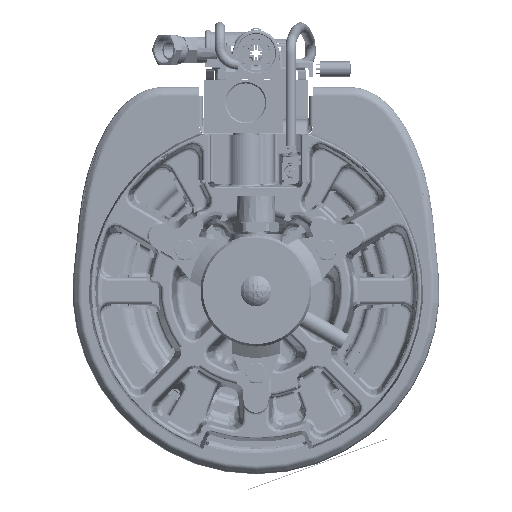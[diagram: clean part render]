
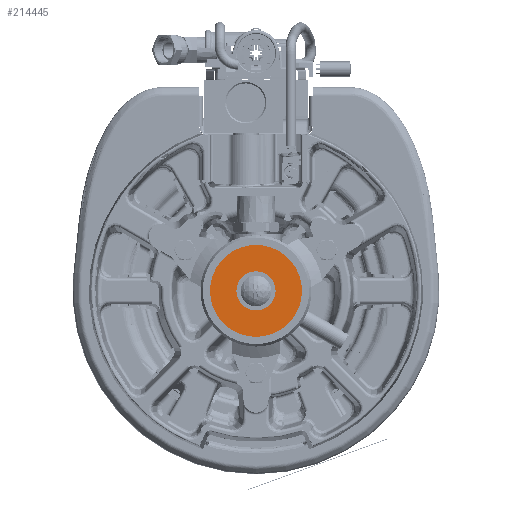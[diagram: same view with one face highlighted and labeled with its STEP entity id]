
A CAD part, front view. The second image highlights one B-rep face of the part: STEP entity #214445.
In plain terms, the highlighted planar face has unit normal (0, -1, 0).
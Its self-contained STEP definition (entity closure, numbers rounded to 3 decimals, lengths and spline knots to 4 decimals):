
#213788=CARTESIAN_POINT('',(0.,-42.8128,0.));
#213789=DIRECTION('',(0.,1.,0.));
#213790=DIRECTION('',(0.,0.,1.));
#213791=AXIS2_PLACEMENT_3D('',#213788,#213789,#213790);
#213793=CARTESIAN_POINT('',(0.,-42.8128,0.));
#213794=DIRECTION('',(0.,1.,0.));
#213795=DIRECTION('',(0.,0.,-1.));
#213796=AXIS2_PLACEMENT_3D('',#213793,#213794,#213795);
#213798=CARTESIAN_POINT('',(0.,-42.8128,0.));
#213799=DIRECTION('',(0.,1.,0.));
#213800=DIRECTION('',(0.,0.,1.));
#213801=AXIS2_PLACEMENT_3D('',#213798,#213799,#213800);
#213803=CARTESIAN_POINT('',(0.,-42.8128,0.));
#213804=DIRECTION('',(0.,1.,0.));
#213805=DIRECTION('',(0.,0.,-1.));
#213806=AXIS2_PLACEMENT_3D('',#213803,#213804,#213805);
#214392=CARTESIAN_POINT('',(0.,-42.8128,0.9547));
#214393=CARTESIAN_POINT('',(0.,-42.8128,-0.9547));
#214394=VERTEX_POINT('',#214392);
#214395=VERTEX_POINT('',#214393);
#214408=CARTESIAN_POINT('',(0.,-42.8128,2.2441));
#214409=CARTESIAN_POINT('',(0.,-42.8128,-2.2441));
#214410=VERTEX_POINT('',#214408);
#214411=VERTEX_POINT('',#214409);
#214428=CARTESIAN_POINT('',(0.,-42.8128,0.));
#214429=DIRECTION('',(0.,-1.,0.));
#214430=DIRECTION('',(0.,0.,-1.));
#214431=AXIS2_PLACEMENT_3D('',#214428,#214429,#214430);
#214432=PLANE('',#214431);
#214434=ORIENTED_EDGE('',*,*,#214433,.T.);
#214436=ORIENTED_EDGE('',*,*,#214435,.T.);
#214437=EDGE_LOOP('',(#214434,#214436));
#214438=FACE_OUTER_BOUND('',#214437,.F.);
#214440=ORIENTED_EDGE('',*,*,#214439,.F.);
#214442=ORIENTED_EDGE('',*,*,#214441,.F.);
#214443=EDGE_LOOP('',(#214440,#214442));
#214444=FACE_BOUND('',#214443,.F.);
#214445=ADVANCED_FACE('',(#214438,#214444),#214432,.T.);
#213792=CIRCLE('',#213791,2.2441);
#213797=CIRCLE('',#213796,2.2441);
#213802=CIRCLE('',#213801,0.9547);
#213807=CIRCLE('',#213806,0.9547);
#214433=EDGE_CURVE('',#214410,#214411,#213792,.T.);
#214435=EDGE_CURVE('',#214411,#214410,#213797,.T.);
#214439=EDGE_CURVE('',#214394,#214395,#213802,.T.);
#214441=EDGE_CURVE('',#214395,#214394,#213807,.T.);
